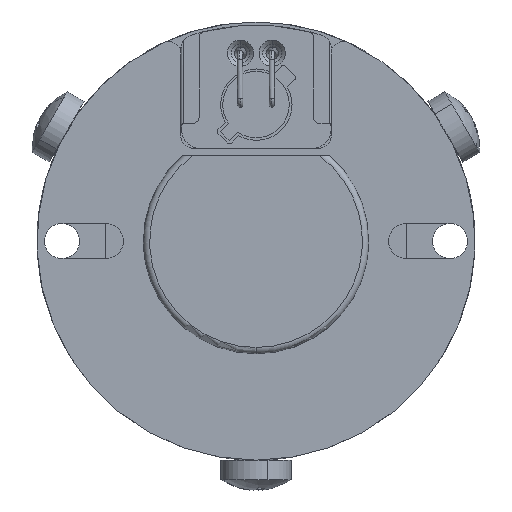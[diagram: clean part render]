
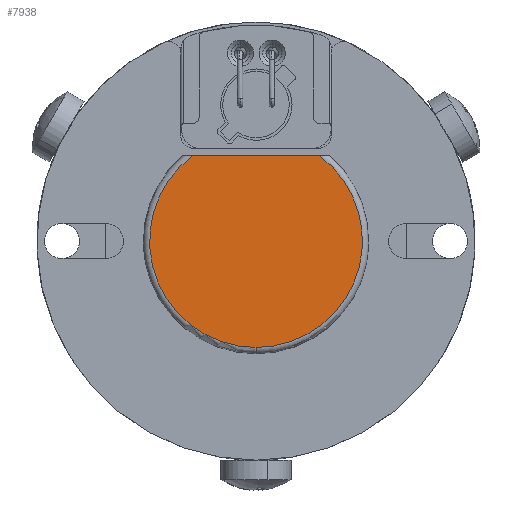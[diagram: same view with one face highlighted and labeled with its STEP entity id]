
A CAD part, left-side view. The second image highlights one B-rep face of the part: STEP entity #7938.
In plain terms, the highlighted planar face has unit normal (-1, 0, 0).
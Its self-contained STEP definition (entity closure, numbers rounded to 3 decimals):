
#267 = DIRECTION ( 'NONE',  ( 0., 0., -1. ) ) ;
#936 = CIRCLE ( 'NONE', #1410, 8.5 ) ;
#1114 = CARTESIAN_POINT ( 'NONE',  ( 27.076, 0., 0. ) ) ;
#1314 = DIRECTION ( 'NONE',  ( -1., 0., 0. ) ) ;
#1410 = AXIS2_PLACEMENT_3D ( 'NONE', #1114, #8046, #11196 ) ;
#2161 = VERTEX_POINT ( 'NONE', #12215 ) ;
#3121 = ORIENTED_EDGE ( 'NONE', *, *, #11238, .T. ) ;
#3732 = VERTEX_POINT ( 'NONE', #10998 ) ;
#3764 = DIRECTION ( 'NONE',  ( -1., 0., 0. ) ) ;
#4107 = EDGE_CURVE ( 'NONE', #3732, #20321, #11657, .T. ) ;
#4802 = ORIENTED_EDGE ( 'NONE', *, *, #4107, .T. ) ;
#6245 = CARTESIAN_POINT ( 'NONE',  ( 27.076, 0., 0. ) ) ;
#7938 = ADVANCED_FACE ( 'NONE', ( #17269 ), #9974, .T. ) ;
#8046 = DIRECTION ( 'NONE',  ( -1., 0., 0. ) ) ;
#8574 = ORIENTED_EDGE ( 'NONE', *, *, #17883, .T. ) ;
#8578 = CARTESIAN_POINT ( 'NONE',  ( 27.076, 10., 6.8 ) ) ;
#8686 = EDGE_LOOP ( 'NONE', ( #4802, #8574, #3121 ) ) ;
#9974 = PLANE ( 'NONE',  #14094 ) ;
#10998 = CARTESIAN_POINT ( 'NONE',  ( 27.076, -5.1, 6.8 ) ) ;
#11196 = DIRECTION ( 'NONE',  ( 0., 0., -1. ) ) ;
#11238 = EDGE_CURVE ( 'NONE', #2161, #3732, #936, .T. ) ;
#11657 = LINE ( 'NONE', #8578, #19950 ) ;
#12215 = CARTESIAN_POINT ( 'NONE',  ( 27.076, 0., -8.5 ) ) ;
#12415 = CARTESIAN_POINT ( 'NONE',  ( 27.076, 5.1, 6.8 ) ) ;
#13116 = AXIS2_PLACEMENT_3D ( 'NONE', #14051, #3764, #267 ) ;
#14051 = CARTESIAN_POINT ( 'NONE',  ( 27.076, 0., 0. ) ) ;
#14094 = AXIS2_PLACEMENT_3D ( 'NONE', #6245, #1314, #15054 ) ;
#15054 = DIRECTION ( 'NONE',  ( 0., 0., -1. ) ) ;
#16225 = CIRCLE ( 'NONE', #13116, 8.5 ) ;
#17269 = FACE_OUTER_BOUND ( 'NONE', #8686, .T. ) ;
#17389 = DIRECTION ( 'NONE',  ( 0., 1., 0. ) ) ;
#17883 = EDGE_CURVE ( 'NONE', #20321, #2161, #16225, .T. ) ;
#19950 = VECTOR ( 'NONE', #17389, 1000. ) ;
#20321 = VERTEX_POINT ( 'NONE', #12415 ) ;
